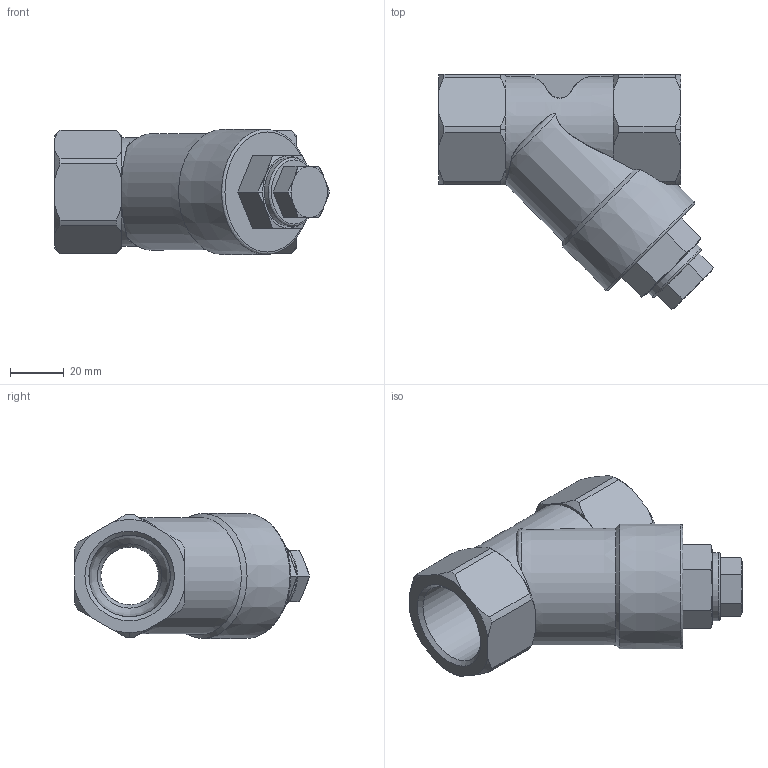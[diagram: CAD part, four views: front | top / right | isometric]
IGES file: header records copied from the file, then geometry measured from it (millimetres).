
Start section: Data from Parasolid IGES Translator 15.0.47, Copyright(c) 2006 Siemens P LM Software. All Rights Reserved.
Global section: file name: 60-5_ES.igs; native system:  By UGS Corp.; preprocessor: XPlus GENERIC/IGES 3.0; author: Noname; organization: Noname; date: 20140806.101807; units: millimetre
Bounding box: 102.18 x 87.38 x 46.5 mm (x, y, z)
Surface area: 29037.6 mm2 (no closed solid volume)
Topology: 0 solids, 0 shells, 118 faces, 618 edges, 598 vertices
Faces by surface type: revolution 82, extrusion 36
